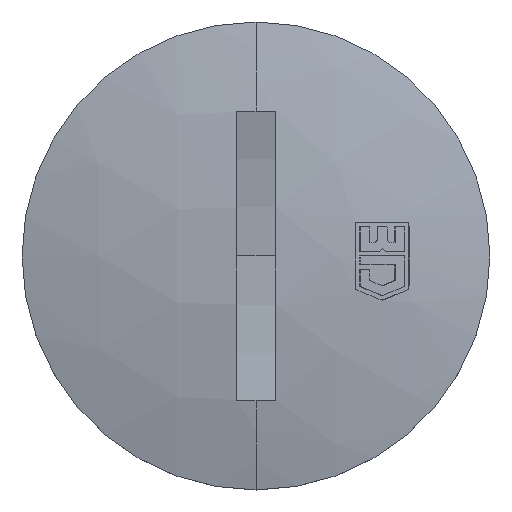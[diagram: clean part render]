
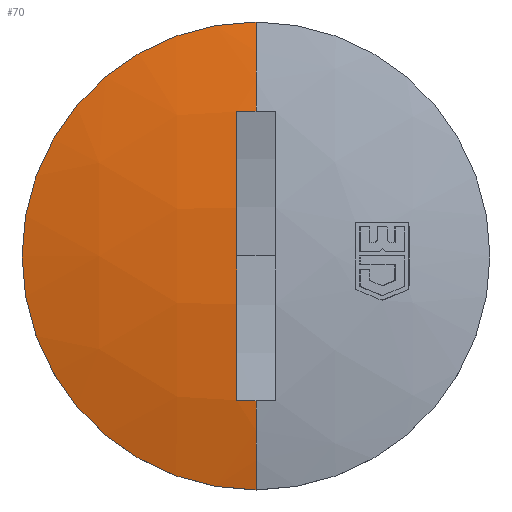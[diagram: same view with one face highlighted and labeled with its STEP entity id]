
A CAD part, top view. The second image highlights one B-rep face of the part: STEP entity #70.
In plain terms, the highlighted spherical face has radius 49 mm.
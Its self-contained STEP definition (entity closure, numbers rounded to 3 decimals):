
#16 = VERTEX_POINT ( 'NONE', #614 ) ;
#22 = EDGE_CURVE ( 'NONE', #285, #37, #663, .T. ) ;
#37 = VERTEX_POINT ( 'NONE', #581 ) ;
#42 = EDGE_CURVE ( 'NONE', #285, #73, #630, .T. ) ;
#47 = ORIENTED_EDGE ( 'NONE', *, *, #81, .F. ) ;
#48 = ORIENTED_EDGE ( 'NONE', *, *, #49, .F. ) ;
#49 = EDGE_CURVE ( 'NONE', #50, #78, #774, .T. ) ;
#50 = VERTEX_POINT ( 'NONE', #773 ) ;
#70 = ADVANCED_FACE ( 'NONE', ( #565 ), #564, .T. ) ;
#71 = EDGE_LOOP ( 'NONE', ( #47, #48, #296, #290, #322, #292 ) ) ;
#73 = VERTEX_POINT ( 'NONE', #558 ) ;
#78 = VERTEX_POINT ( 'NONE', #881 ) ;
#81 = EDGE_CURVE ( 'NONE', #78, #16, #809, .T. ) ;
#167 = EDGE_CURVE ( 'NONE', #50, #37, #834, .T. ) ;
#285 = VERTEX_POINT ( 'NONE', #1048 ) ;
#290 = ORIENTED_EDGE ( 'NONE', *, *, #22, .F. ) ;
#292 = ORIENTED_EDGE ( 'NONE', *, *, #293, .F. ) ;
#293 = EDGE_CURVE ( 'NONE', #16, #73, #1179, .T. ) ;
#296 = ORIENTED_EDGE ( 'NONE', *, *, #167, .T. ) ;
#322 = ORIENTED_EDGE ( 'NONE', *, *, #42, .T. ) ;
#558 = CARTESIAN_POINT ( 'NONE',  ( 0., 12., 8.008 ) ) ;
#560 = DIRECTION ( 'NONE',  ( 0., 1., 0. ) ) ;
#561 = DIRECTION ( 'NONE',  ( 1., 0., 0. ) ) ;
#562 = CARTESIAN_POINT ( 'NONE',  ( 0., 0., -39.5 ) ) ;
#563 = AXIS2_PLACEMENT_3D ( 'NONE', #562, #561, #560 ) ;
#564 = SPHERICAL_SURFACE ( 'NONE', #563, 49. ) ;
#565 = FACE_OUTER_BOUND ( 'NONE', #71, .T. ) ;
#581 = CARTESIAN_POINT ( 'NONE',  ( -1., 7.402, 8.927 ) ) ;
#614 = CARTESIAN_POINT ( 'NONE',  ( 0., -12., 8.008 ) ) ;
#626 = DIRECTION ( 'NONE',  ( 0., 0., 1. ) ) ;
#627 = DIRECTION ( 'NONE',  ( -1., 0., 0. ) ) ;
#628 = CARTESIAN_POINT ( 'NONE',  ( 0., 0., -39.5 ) ) ;
#629 = AXIS2_PLACEMENT_3D ( 'NONE', #628, #627, #626 ) ;
#630 = CIRCLE ( 'NONE', #629, 49. ) ;
#658 = CARTESIAN_POINT ( 'NONE',  ( -1., 7.402, 8.927 ) ) ;
#659 = CARTESIAN_POINT ( 'NONE',  ( -0.667, 7.419, 8.932 ) ) ;
#660 = CARTESIAN_POINT ( 'NONE',  ( -0.333, 7.427, 8.934 ) ) ;
#661 = CARTESIAN_POINT ( 'NONE',  ( 0., 7.427, 8.934 ) ) ;
#663 = B_SPLINE_CURVE_WITH_KNOTS ( 'NONE', 3,
 ( #661, #660, #659, #658 ),
 .UNSPECIFIED., .F., .F.,
 ( 4, 4 ),
 ( 0.001, 0.002 ),
 .UNSPECIFIED. ) ;
#769 = CARTESIAN_POINT ( 'NONE',  ( 0., -7.427, 8.934 ) ) ;
#770 = CARTESIAN_POINT ( 'NONE',  ( -0.333, -7.427, 8.934 ) ) ;
#771 = CARTESIAN_POINT ( 'NONE',  ( -0.667, -7.419, 8.932 ) ) ;
#772 = CARTESIAN_POINT ( 'NONE',  ( -1., -7.402, 8.927 ) ) ;
#773 = CARTESIAN_POINT ( 'NONE',  ( -1., -7.402, 8.927 ) ) ;
#774 = B_SPLINE_CURVE_WITH_KNOTS ( 'NONE', 3,
 ( #772, #771, #770, #769 ),
 .UNSPECIFIED., .F., .F.,
 ( 4, 4 ),
 ( 0., 0.001 ),
 .UNSPECIFIED. ) ;
#806 = DIRECTION ( 'NONE',  ( 0., 1., 0. ) ) ;
#807 = DIRECTION ( 'NONE',  ( 1., 0., 0. ) ) ;
#808 = AXIS2_PLACEMENT_3D ( 'NONE', #841, #807, #806 ) ;
#809 = CIRCLE ( 'NONE', #808, 49. ) ;
#830 = DIRECTION ( 'NONE',  ( 0., 0., -1. ) ) ;
#831 = DIRECTION ( 'NONE',  ( -1., 0., 0. ) ) ;
#832 = CARTESIAN_POINT ( 'NONE',  ( -1., 0., -39.5 ) ) ;
#833 = AXIS2_PLACEMENT_3D ( 'NONE', #832, #831, #830 ) ;
#834 = CIRCLE ( 'NONE', #833, 48.99 ) ;
#841 = CARTESIAN_POINT ( 'NONE',  ( 0., 0., -39.5 ) ) ;
#881 = CARTESIAN_POINT ( 'NONE',  ( 0., -7.427, 8.934 ) ) ;
#1048 = CARTESIAN_POINT ( 'NONE',  ( 0., 7.427, 8.934 ) ) ;
#1113 = DIRECTION ( 'NONE',  ( 0., 1., 0. ) ) ;
#1114 = DIRECTION ( 'NONE',  ( 0., 0., -1. ) ) ;
#1115 = CARTESIAN_POINT ( 'NONE',  ( 0., 0., 8.008 ) ) ;
#1178 = AXIS2_PLACEMENT_3D ( 'NONE', #1115, #1114, #1113 ) ;
#1179 = CIRCLE ( 'NONE', #1178, 12. ) ;
